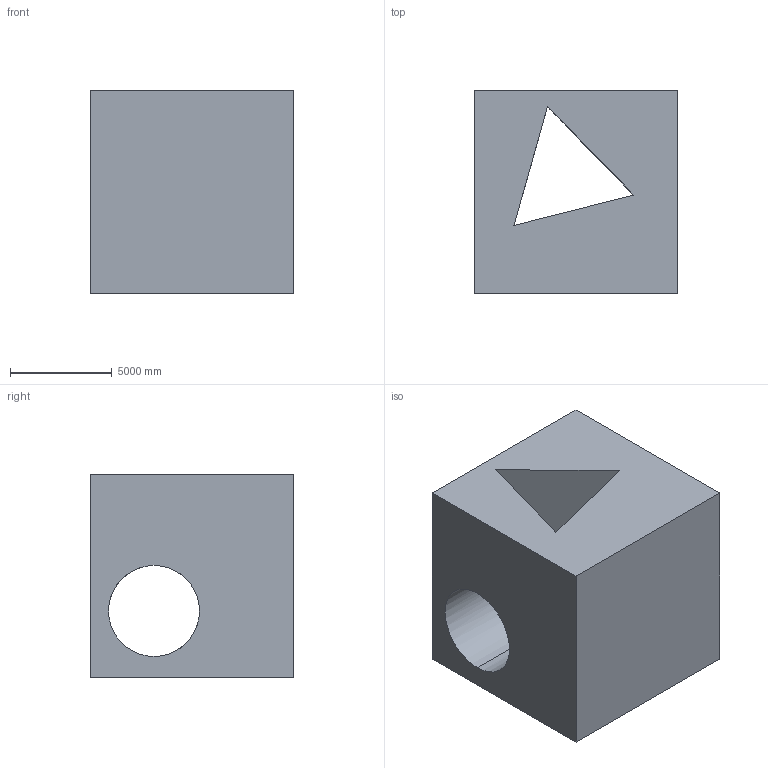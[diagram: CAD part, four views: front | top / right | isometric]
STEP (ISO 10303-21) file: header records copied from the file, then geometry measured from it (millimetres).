
FILE_DESCRIPTION (( 'STEP AP203' ), '1' );
FILE_NAME ('31.STEP', '2022-07-28T13:27:00', ( 'user' ), ( '' ), 'SwSTEP 2.0', 'SolidWorks 2021', '' );
FILE_SCHEMA (( 'CONFIG_CONTROL_DESIGN' ));
Length unit declared in the file: centimetre
Products named in the file (1): 31
Bounding box: 10000 x 10000 x 10000 mm (x, y, z)
Volume: 727906090672.6 mm3; surface area: 780787750.8 mm2
Topology: 1 solids, 1 shells, 13 faces, 36 edges, 24 vertices
Faces by surface type: plane 9, cylinder 4
Entity records: 503 total; most frequent: CARTESIAN_POINT 92, ORIENTED_EDGE 72, DIRECTION 62, EDGE_CURVE 36, VECTOR 26, LINE 26, VERTEX_POINT 24, EDGE_LOOP 18
